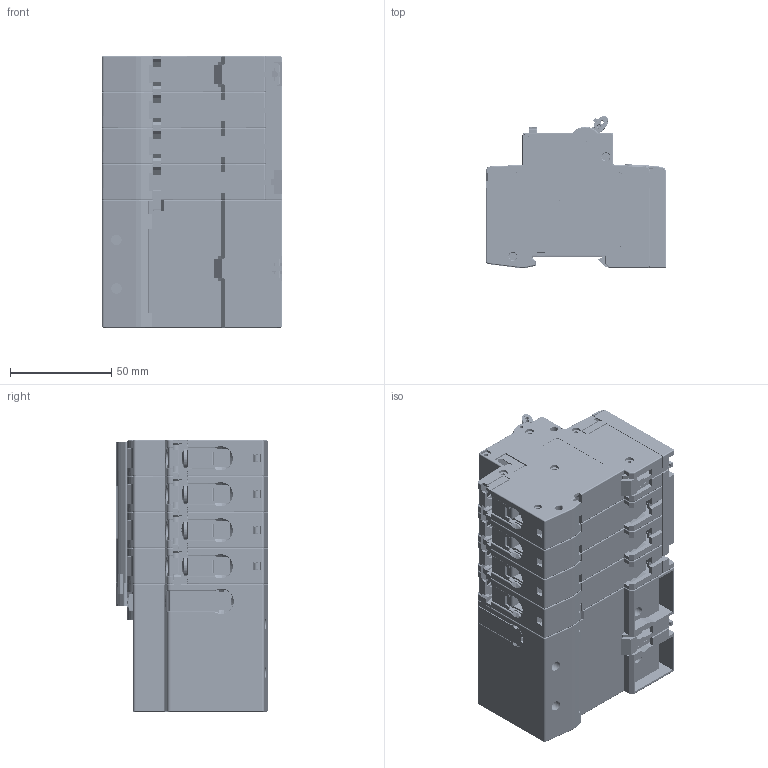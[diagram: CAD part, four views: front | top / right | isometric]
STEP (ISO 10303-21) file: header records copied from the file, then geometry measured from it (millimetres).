
FILE_DESCRIPTION (( 'STEP AP214' ), '1' );
FILE_NAME ('KNLE2-63H装配体4P.STEP', '2020-10-12T02:56:46', ( '微软用户' ), ( '微软中国' ), 'SwSTEP 2.0', 'SolidWorks 2015', '' );
FILE_SCHEMA (( 'AUTOMOTIVE_DESIGN' ));
Length unit declared in the file: millimetre
Products named in the file (20): 2017C65裔; 忒梟1.1; 儂殤裔; 儂殤菁; 裔赽4P; 價釱4P; 縐諶; KNLE2-63H蚾饜极4P; N憤欶3.DWG; jie_xian_ban_r-knb2-s; 偌聽; 儂殤耜啣; sb_tao_4p-knb2-s; 質蚚C65珋測遴蹟隊; 借用C65现代款接线柱; 諉盄啣; C65忒梟; BMS（32.7）32-04卡板; 4P欶; 2017C65菁
Assembly tree (50 placements, depth 2):
  KNLE2-63H蚾饜极4P
    價釱4P
    裔赽4P
    儂殤菁
    儂殤裔
    忒梟1.1
    2017C65裔  x4
    2017C65菁  x4
    4P欶
    BMS（32.7）32-04卡板  x2
    C65忒梟  x4
    諉盄啣  x4
    借用C65现代款接线柱  x8
    質蚚C65珋測遴蹟隊  x8
    sb_tao_4p-knb2-s
    儂殤耜啣
    偌聽
    jie_xian_ban_r-knb2-s  x4
    N憤欶3.DWG
    縐諶  x2
Bounding box: 89 x 75.06 x 134.2 mm (x, y, z)
Volume: 205168.5 mm3; surface area: 304128.7 mm2
Topology: 51 solids, 71 shells, 13193 faces, 36842 edges, 24112 vertices
Faces by surface type: plane 9011, cylinder 3409, cone 408, bspline 295, torus 55, sphere 15
Entity records: 184664 total; most frequent: CARTESIAN_POINT 49241, ORIENTED_EDGE 29002, DIRECTION 25592, EDGE_CURVE 14501, LINE 10712, VECTOR 10712, VERTEX_POINT 9454, AXIS2_PLACEMENT_3D 7440
